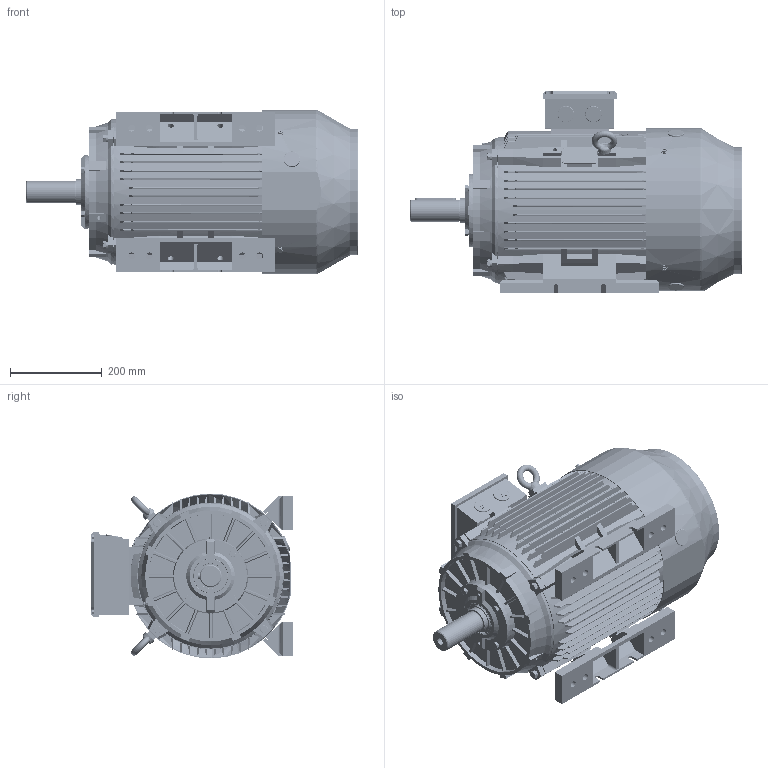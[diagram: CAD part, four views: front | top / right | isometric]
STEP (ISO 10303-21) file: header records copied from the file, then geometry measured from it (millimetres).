
FILE_DESCRIPTION (( 'STEP AP203' ), '1' );
FILE_NAME ('TC 180L B3外形图.STEP', '2014-09-04T09:07:58', ( '微软用户' ), ( '微软中国' ), 'SwSTEP 2.0', 'SolidWorks 2008', '' );
FILE_SCHEMA (( 'CONFIG_CONTROL_DESIGN' ));
Length unit declared in the file: millimetre
Products named in the file (27): TC 180 B3 后端盖_默认; TC 180 轴承外盖NDE_默认; TC 180 B3 前端盖_默认; TC 180 轴承外盖DE_默认; TC 160-180接线盒盖_默认; M10-35_默认; 10_默认; 扣塞_默认; M6-10_默认; TC 180L B3俋倛芞; TC 180L B5机座_默认; TC 180L 底脚_默认; TC 180L转子_默认; TC 180L 轴_默认; 6311_默认; 平键14-9-90_默认; TC 180 轴承内盖_默认; IE2 180-4P风叶_默认; TC 180风罩_默认; TC 160-180接线盒座_默认; 8_默认; M8-65_默认; 油封55-75-8_默认; 铜油嘴_默认; 螺塞M32_默认; M6-20_默认; 吊环M12_默认
Assembly tree (52 placements, depth 3):
  TC 180L B3俋倛芞
    M10-35_默认  x4
    8_默认  x4
    10_默认  x4
    TC 160-180接线盒座_默认
    铜油嘴_默认  x2
    扣塞_默认  x2
    M6-20_默认  x4
    TC 180风罩_默认
    M8-65_默认  x4
    TC 180 轴承内盖_默认  x2
    M6-10_默认  x4
    油封55-75-8_默认  x2
    TC 180 B3 后端盖_默认
    吊环M12_默认  x2
    TC 180 轴承外盖DE_默认
    IE2 180-4P风叶_默认
    螺塞M32_默认  x2
    TC 180L 底脚_默认  x2
    TC 160-180接线盒盖_默认
    TC 180 轴承外盖NDE_默认
    TC 180L转子_默认
      平键14-9-90_默认
      TC 180L 轴_默认
      6311_默认  x2
    TC 180L B5机座_默认
    TC 180 B3 前端盖_默认
Bounding box: 725 x 441 x 359.96 mm (x, y, z)
Volume: 11983622 mm3; surface area: 3313963.7 mm2
Topology: 53 solids, 53 shells, 6777 faces, 19322 edges, 12646 vertices
Faces by surface type: plane 3222, cylinder 2595, cone 385, torus 252, bspline 211, sphere 112
Entity records: 214030 total; most frequent: CARTESIAN_POINT 54041, ORIENTED_EDGE 33502, DIRECTION 32046, EDGE_CURVE 16751, AXIS2_PLACEMENT_3D 11183, VERTEX_POINT 10988, VECTOR 9680, LINE 9680
